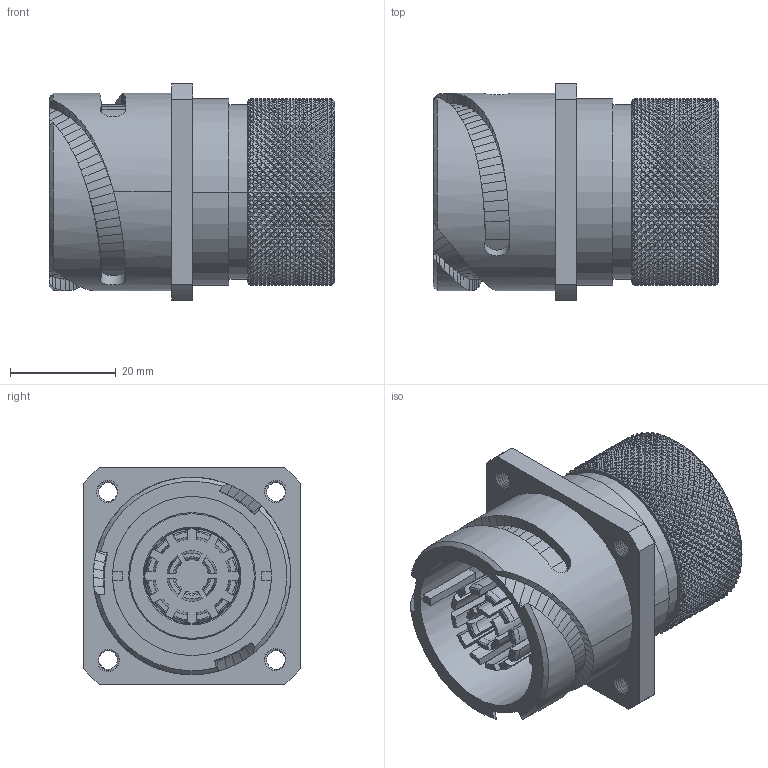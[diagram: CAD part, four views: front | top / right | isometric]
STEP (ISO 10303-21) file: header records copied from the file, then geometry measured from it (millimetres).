
FILE_DESCRIPTION((''),'2;1');
FILE_NAME('GCE3100E22M90S-B-T3_SW0001','2023-06-01T09:03:41',('paultorloting'),('NET AG system integration'),'CREO PARAMETRIC BY PTC INC, 2021404','CREO PARAMETRIC BY PTC INC, 2021404','');
FILE_SCHEMA(('AUTOMOTIVE_DESIGN { 1 0 10303 214 1 1 1 1 }'));
Products named in the file (1): GCE3100E22M90S-B-T3_SW0001
Bounding box: 54 x 41 x 41 mm (x, y, z)
Volume: 43795 mm3; surface area: 15774.8 mm2
Topology: 1 solids, 1 shells, 11551 faces, 25102 edges, 13588 vertices
Faces by surface type: bspline 6666, plane 3272, cylinder 1494, cone 83, torus 36
Entity records: 497767 total; most frequent: CARTESIAN_POINT 235583, ORIENTED_EDGE 50204, EDGE_CURVE 25102, B_SPLINE_CURVE_WITH_KNOTS 21308, DIRECTION 13919, VERTEX_POINT 13588, EDGE_LOOP 11596, FACE_OUTER_BOUND 11551
